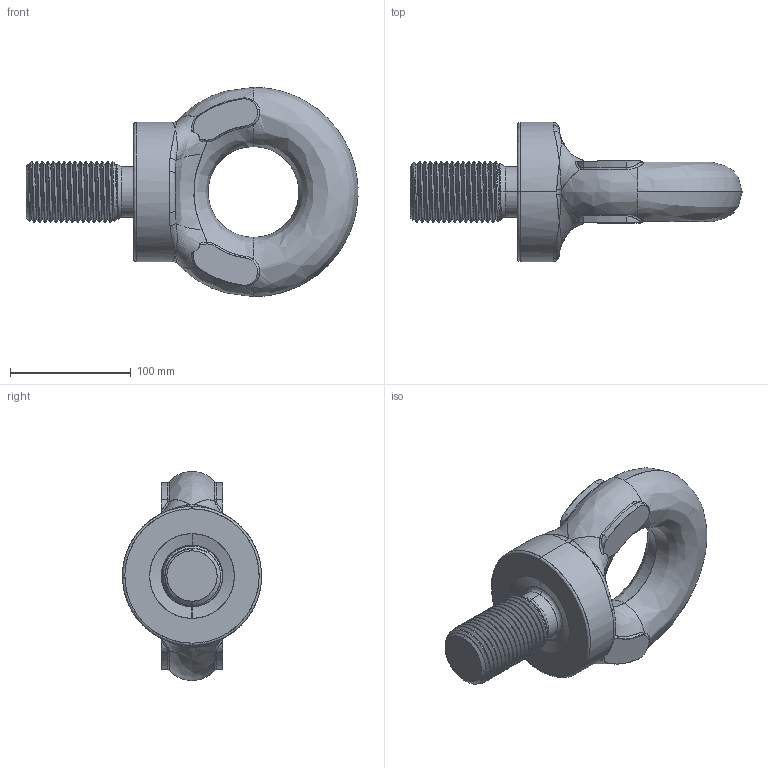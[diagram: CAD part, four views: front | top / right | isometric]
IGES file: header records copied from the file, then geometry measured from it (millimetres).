
Start section: SolidWorks IGES file using analytic representation for surfaces
Global section: file name: C:\Users\Brenton\Documents\Townley\Eye Bolts\EBW2000\EBW2000.IGS; native system: SolidWorks 2012; preprocessor: SolidWorks 2012; author: Brenton; date: 140224.152040; units: millimetre
Bounding box: 274.41 x 115 x 173 mm (x, y, z)
Surface area: 102310.3 mm2 (no closed solid volume)
Topology: 0 solids, 0 shells, 147 faces, 3235 edges, 3227 vertices
Faces by surface type: bspline 83, revolution 64
